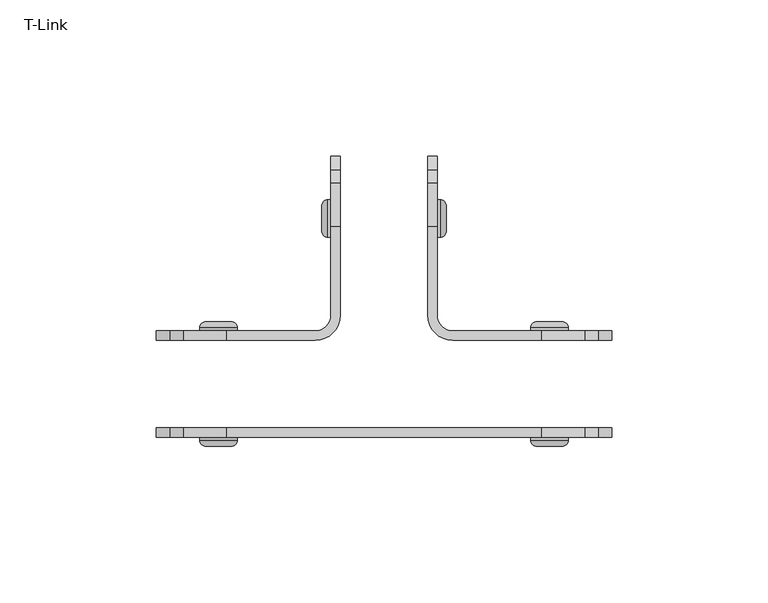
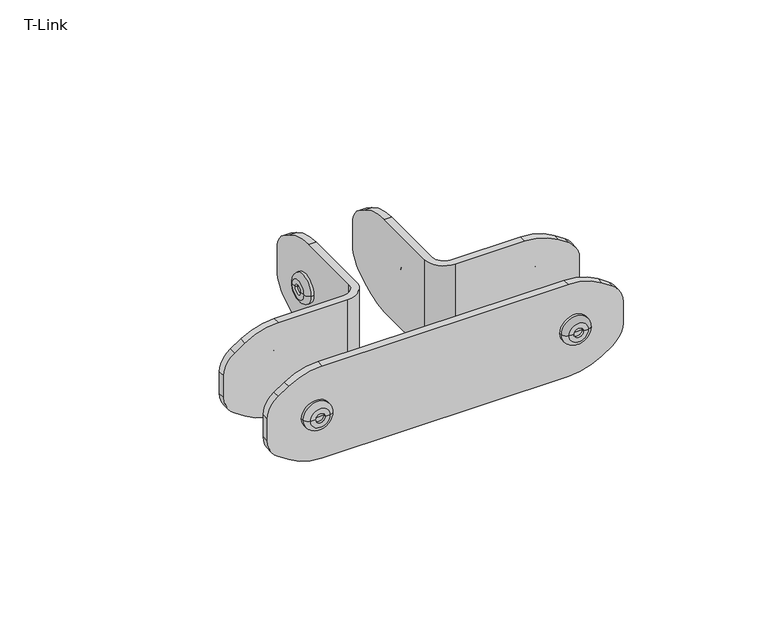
"""IFC4 building model written with IfcOpenShell, lengths in millimetres: furniture geometry, DBLTD_Sixteen3_PrivacyScreens_Artus_Bracket : T-Link."""

from ifc_helpers import new_model, si_unit, point, frame, frame_2d, origin, place, context, project, spatial, polyline, circle_curve, ellipse_curve, trimmed, segment, composite_curve, outline, extrude, source, transform, mapped, element, save
from ifc_brep_helpers import plane_surface, cylinder_surface, revolved_surface, advanced_brep


def t_link_76a82dae(model_context):
    return source(origin(), model_context, "Body", "SolidModel", [
        advanced_brep(
        [(17.9858199, -773.0, 100.0), (17.0, -773.0, 100.0), (17.0, -761.0, 100.0), (17.9858199, -761.0, 100.0), (17.0, -767.0, 100.0), (19.0, -767.0, 100.0), (19.0, -769.0, 100.0), (19.0, -765.0, 100.0), (20.0, -769.0, 100.0), (20.0, -765.0, 100.0), (20.0, -770.9858199, 100.0), (20.0, -763.0141801, 100.0)],
        [
            (0, 1),
            (1, 2, circle_curve(frame((17.0, -767.0, 100.0), z_axis=(1.0, 0.0, 0.0), x_axis=(0.0, 1.0, 0.0)), 6.0)),
            (2, 3),
            (3, 0, circle_curve(frame((17.9858199, -767.0, 100.0), z_axis=(-1.0, 0.0, 0.0), x_axis=(0.0, 1.0, 0.0)), 6.0)),
            (2, 1, circle_curve(frame((17.0, -767.0, 100.0), z_axis=(1.0, 0.0, 0.0), x_axis=(0.0, 1.0, 0.0)), 6.0)),
            (0, 3, circle_curve(frame((17.9858199, -767.0, 100.0), z_axis=(-1.0, 0.0, 0.0), x_axis=(0.0, 1.0, 0.0)), 6.0)),
            (1, 4),
            (4, 2),
            (5, 6),
            (6, 7, circle_curve(frame((19.0, -767.0, 100.0), z_axis=(1.0, 0.0, 0.0), x_axis=(0.0, 1.0, 0.0)), 2.0)),
            (7, 5),
            (7, 6, circle_curve(frame((19.0, -767.0, 100.0), z_axis=(1.0, 0.0, 0.0), x_axis=(0.0, 1.0, 0.0)), 2.0)),
            (6, 8),
            (8, 9, circle_curve(frame((20.0, -767.0, 100.0), z_axis=(1.0, 0.0, 0.0), x_axis=(0.0, 1.0, 0.0)), 2.0)),
            (9, 7),
            (9, 8, circle_curve(frame((20.0, -767.0, 100.0), z_axis=(1.0, 0.0, 0.0), x_axis=(0.0, 1.0, 0.0)), 2.0)),
            (8, 10),
            (10, 11, circle_curve(frame((20.0, -767.0, 100.0), z_axis=(1.0, 0.0, 0.0), x_axis=(0.0, 1.0, 0.0)), 3.9858199)),
            (11, 9),
            (11, 10, circle_curve(frame((20.0, -767.0, 100.0), z_axis=(1.0, 0.0, 0.0), x_axis=(0.0, 1.0, 0.0)), 3.9858199)),
            (10, 0, circle_curve(frame((17.9858199, -770.9858199, 100.0), z_axis=(0.0, 0.0, -1.0), x_axis=(0.0, 1.0, 0.0)), 2.0141801)),
            (3, 11, circle_curve(frame((17.9858199, -763.0141801, 100.0), z_axis=(0.0, 0.0, -1.0), x_axis=(0.0, -1.0, 0.0)), 2.0141801)),
        ],
        [
            cylinder_surface(frame((18.424474, -767.0, 100.0), z_axis=(1.0, 0.0, 0.0), x_axis=(0.0, 1.0, 0.0)), 6.0),
            plane_surface(frame((17.0, -767.0, 100.0), z_axis=(-1.0, 0.0, 0.0), x_axis=(0.0, 1.0, 0.0))),
            plane_surface(frame((19.0, -767.0, 100.0), z_axis=(1.0, 0.0, 0.0), x_axis=(0.0, 1.0, 0.0))),
            revolved_surface(polyline([(20.0, -765.0, 100.0), (19.0, -765.0, 100.0)]), (18.424474, -767.0, 100.0), (1.0, 0.0, 0.0)),
            plane_surface(frame((20.0, -767.0, 100.0), z_axis=(1.0, 0.0, 0.0), x_axis=(0.0, 1.0, 0.0))),
            revolved_surface(trimmed(ellipse_curve(frame((17.9858199, -763.0141801, 100.0), z_axis=(0.0, 0.0, -1.0), x_axis=(0.0, -1.0, 0.0)), 2.0141801, 2.0141801), [point((17.9858199, -761.0, 100.0))], [point((20.0, -763.0141801, 100.0))], True, "CARTESIAN"), (18.424474, -767.0, 100.0), (1.0, 0.0, 0.0)),
        ],
        [
            (0, [[1, 2, 3, 4]]),
            (0, [[-3, 5, -1, 6]]),
            (1, [[7, 8, -2]]),
            (1, [[-8, -7, -5]]),
            (2, [[9, 10, 11]]),
            (2, [[-11, 12, -9]]),
            (3, [[13, 14, 15, -10]]),
            (3, [[-15, 16, -13, -12]]),
            (4, [[17, 18, 19, -14]]),
            (4, [[-19, 20, -17, -16]]),
            (5, [[21, -4, 22, -18]]),
            (5, [[-22, -6, -21, -20]]),
        ],
    ),
        advanced_brep(
        [(-17.0, -773.0, 100.0), (-17.9858199, -773.0, 100.0), (-17.9858199, -761.0, 100.0), (-17.0, -761.0, 100.0), (-17.0, -767.0, 100.0), (-19.0, -769.0, 100.0), (-19.0, -767.0, 100.0), (-19.0, -765.0, 100.0), (-20.0, -769.0, 100.0), (-20.0, -765.0, 100.0), (-20.0, -770.9858199, 100.0), (-20.0, -763.0141801, 100.0)],
        [
            (0, 1),
            (1, 2, circle_curve(frame((-17.9858199, -767.0, 100.0), z_axis=(1.0, 0.0, 0.0), x_axis=(0.0, 1.0, 0.0)), 6.0)),
            (2, 3),
            (3, 0, circle_curve(frame((-17.0, -767.0, 100.0), z_axis=(-1.0, 0.0, 0.0), x_axis=(0.0, 1.0, 0.0)), 6.0)),
            (2, 1, circle_curve(frame((-17.9858199, -767.0, 100.0), z_axis=(1.0, 0.0, 0.0), x_axis=(0.0, 1.0, 0.0)), 6.0)),
            (0, 3, circle_curve(frame((-17.0, -767.0, 100.0), z_axis=(-1.0, 0.0, 0.0), x_axis=(0.0, 1.0, 0.0)), 6.0)),
            (4, 0),
            (3, 4),
            (5, 6),
            (6, 7),
            (7, 5, circle_curve(frame((-19.0, -767.0, 100.0), z_axis=(-1.0, 0.0, 0.0), x_axis=(0.0, 1.0, 0.0)), 2.0)),
            (5, 7, circle_curve(frame((-19.0, -767.0, 100.0), z_axis=(-1.0, 0.0, 0.0), x_axis=(0.0, 1.0, 0.0)), 2.0)),
            (8, 5),
            (7, 9),
            (9, 8, circle_curve(frame((-20.0, -767.0, 100.0), z_axis=(-1.0, 0.0, 0.0), x_axis=(0.0, 1.0, 0.0)), 2.0)),
            (8, 9, circle_curve(frame((-20.0, -767.0, 100.0), z_axis=(-1.0, 0.0, 0.0), x_axis=(0.0, 1.0, 0.0)), 2.0)),
            (10, 8),
            (9, 11),
            (11, 10, circle_curve(frame((-20.0, -767.0, 100.0), z_axis=(-1.0, 0.0, 0.0), x_axis=(0.0, 1.0, 0.0)), 3.9858199)),
            (10, 11, circle_curve(frame((-20.0, -767.0, 100.0), z_axis=(-1.0, 0.0, 0.0), x_axis=(0.0, 1.0, 0.0)), 3.9858199)),
            (1, 10, circle_curve(frame((-17.9858199, -770.9858199, 100.0), z_axis=(0.0, 0.0, -1.0), x_axis=(0.0, 1.0, 0.0)), 2.0141801)),
            (11, 2, circle_curve(frame((-17.9858199, -763.0141801, 100.0), z_axis=(0.0, 0.0, -1.0), x_axis=(0.0, -1.0, 0.0)), 2.0141801)),
        ],
        [
            cylinder_surface(frame((-18.424474, -767.0, 100.0), z_axis=(1.0, 0.0, 0.0), x_axis=(0.0, 1.0, 0.0)), 6.0),
            plane_surface(frame((-17.0, -767.0, 100.0), z_axis=(1.0, 0.0, 0.0), x_axis=(0.0, 1.0, 0.0))),
            plane_surface(frame((-19.0, -767.0, 100.0), z_axis=(-1.0, 0.0, 0.0), x_axis=(0.0, 1.0, 0.0))),
            revolved_surface(polyline([(-19.0, -765.0, 100.0), (-20.0, -765.0, 100.0)]), (-18.424474, -767.0, 100.0), (1.0, 0.0, 0.0)),
            plane_surface(frame((-20.0, -767.0, 100.0), z_axis=(-1.0, 0.0, 0.0), x_axis=(0.0, 1.0, 0.0))),
            revolved_surface(trimmed(ellipse_curve(frame((-17.9858199, -763.0141801, 100.0), z_axis=(0.0, 0.0, -1.0), x_axis=(0.0, -1.0, 0.0)), 2.0141801, 2.0141801), [point((-20.0, -763.0141801, 100.0))], [point((-17.9858199, -761.0, 100.0))], True, "CARTESIAN"), (-18.424474, -767.0, 100.0), (1.0, 0.0, 0.0)),
        ],
        [
            (0, [[1, 2, 3, 4]]),
            (0, [[-3, 5, -1, 6]]),
            (1, [[7, -4, 8]]),
            (1, [[-8, -6, -7]]),
            (2, [[9, 10, 11]]),
            (2, [[-10, -9, 12]]),
            (3, [[13, -11, 14, 15]]),
            (3, [[-14, -12, -13, 16]]),
            (4, [[17, -15, 18, 19]]),
            (4, [[-18, -16, -17, 20]]),
            (5, [[21, -19, 22, -2]]),
            (5, [[-22, -20, -21, -5]]),
        ],
    ),
        advanced_brep(
        [(47.0, -803.0, 100.0), (47.0, -802.0141801, 100.0), (59.0, -802.0141801, 100.0), (59.0, -803.0, 100.0), (53.0, -803.0, 100.0), (51.0, -801.0, 100.0), (53.0, -801.0, 100.0), (55.0, -801.0, 100.0), (51.0, -800.0, 100.0), (55.0, -800.0, 100.0), (49.0141801, -800.0, 100.0), (56.9858199, -800.0, 100.0)],
        [
            (0, 1),
            (1, 2, circle_curve(frame((53.0, -802.0141801, 100.0), z_axis=(0.0, -1.0, 0.0), x_axis=(1.0, 0.0, 0.0)), 6.0)),
            (2, 3),
            (3, 0, circle_curve(frame((53.0, -803.0, 100.0), z_axis=(0.0, 1.0, 0.0), x_axis=(1.0, 0.0, 0.0)), 6.0)),
            (2, 1, circle_curve(frame((53.0, -802.0141801, 100.0), z_axis=(0.0, -1.0, 0.0), x_axis=(1.0, 0.0, 0.0)), 6.0)),
            (0, 3, circle_curve(frame((53.0, -803.0, 100.0), z_axis=(0.0, 1.0, 0.0), x_axis=(1.0, 0.0, 0.0)), 6.0)),
            (4, 0),
            (3, 4),
            (5, 6),
            (6, 7),
            (7, 5, circle_curve(frame((53.0, -801.0, 100.0), z_axis=(0.0, 1.0, 0.0), x_axis=(1.0, 0.0, 0.0)), 2.0)),
            (5, 7, circle_curve(frame((53.0, -801.0, 100.0), z_axis=(0.0, 1.0, 0.0), x_axis=(1.0, 0.0, 0.0)), 2.0)),
            (8, 5),
            (7, 9),
            (9, 8, circle_curve(frame((53.0, -800.0, 100.0), z_axis=(0.0, 1.0, 0.0), x_axis=(1.0, 0.0, 0.0)), 2.0)),
            (8, 9, circle_curve(frame((53.0, -800.0, 100.0), z_axis=(0.0, 1.0, 0.0), x_axis=(1.0, 0.0, 0.0)), 2.0)),
            (10, 8),
            (9, 11),
            (11, 10, circle_curve(frame((53.0, -800.0, 100.0), z_axis=(0.0, 1.0, 0.0), x_axis=(1.0, 0.0, 0.0)), 3.9858199)),
            (10, 11, circle_curve(frame((53.0, -800.0, 100.0), z_axis=(0.0, 1.0, 0.0), x_axis=(1.0, 0.0, 0.0)), 3.9858199)),
            (1, 10, circle_curve(frame((49.0141801, -802.0141801, 100.0), z_axis=(0.0, 0.0, -1.0), x_axis=(1.0, 0.0, 0.0)), 2.0141801)),
            (11, 2, circle_curve(frame((56.9858199, -802.0141801, 100.0), z_axis=(0.0, 0.0, -1.0), x_axis=(-1.0, 0.0, 0.0)), 2.0141801)),
        ],
        [
            cylinder_surface(frame((53.0, -801.575526, 100.0), z_axis=(0.0, -1.0, 0.0), x_axis=(1.0, 0.0, 0.0)), 6.0),
            plane_surface(frame((53.0, -803.0, 100.0), z_axis=(0.0, -1.0, 0.0), x_axis=(1.0, 0.0, 0.0))),
            plane_surface(frame((53.0, -801.0, 100.0), z_axis=(0.0, 1.0, 0.0), x_axis=(1.0, 0.0, 0.0))),
            revolved_surface(polyline([(55.0, -801.0, 100.0), (55.0, -800.0, 100.0)]), (53.0, -801.575526, 100.0), (0.0, -1.0, 0.0)),
            plane_surface(frame((53.0, -800.0, 100.0), z_axis=(0.0, 1.0, 0.0), x_axis=(1.0, 0.0, 0.0))),
            revolved_surface(trimmed(ellipse_curve(frame((56.9858199, -802.0141801, 100.0), z_axis=(0.0, 0.0, -1.0), x_axis=(-1.0, 0.0, 0.0)), 2.0141801, 2.0141801), [point((56.9858199, -800.0, 100.0))], [point((59.0, -802.0141801, 100.0))], True, "CARTESIAN"), (53.0, -801.575526, 100.0), (0.0, -1.0, 0.0)),
        ],
        [
            (0, [[1, 2, 3, 4]]),
            (0, [[-3, 5, -1, 6]]),
            (1, [[7, -4, 8]]),
            (1, [[-8, -6, -7]]),
            (2, [[9, 10, 11]]),
            (2, [[-10, -9, 12]]),
            (3, [[13, -11, 14, 15]]),
            (3, [[-14, -12, -13, 16]]),
            (4, [[17, -15, 18, 19]]),
            (4, [[-18, -16, -17, 20]]),
            (5, [[21, -19, 22, -2]]),
            (5, [[-22, -20, -21, -5]]),
        ],
    ),
        advanced_brep(
        [(47.0, -837.9858199, 100.0), (47.0, -837.0, 100.0), (59.0, -837.0, 100.0), (59.0, -837.9858199, 100.0), (53.0, -837.0, 100.0), (53.0, -839.0, 100.0), (51.0, -839.0, 100.0), (55.0, -839.0, 100.0), (51.0, -840.0, 100.0), (55.0, -840.0, 100.0), (49.0141801, -840.0, 100.0), (56.9858199, -840.0, 100.0)],
        [
            (0, 1),
            (1, 2, circle_curve(frame((53.0, -837.0, 100.0), z_axis=(0.0, -1.0, 0.0), x_axis=(1.0, 0.0, 0.0)), 6.0)),
            (2, 3),
            (3, 0, circle_curve(frame((53.0, -837.9858199, 100.0), z_axis=(0.0, 1.0, 0.0), x_axis=(1.0, 0.0, 0.0)), 6.0)),
            (2, 1, circle_curve(frame((53.0, -837.0, 100.0), z_axis=(0.0, -1.0, 0.0), x_axis=(1.0, 0.0, 0.0)), 6.0)),
            (0, 3, circle_curve(frame((53.0, -837.9858199, 100.0), z_axis=(0.0, 1.0, 0.0), x_axis=(1.0, 0.0, 0.0)), 6.0)),
            (1, 4),
            (4, 2),
            (5, 6),
            (6, 7, circle_curve(frame((53.0, -839.0, 100.0), z_axis=(0.0, -1.0, 0.0), x_axis=(1.0, 0.0, 0.0)), 2.0)),
            (7, 5),
            (7, 6, circle_curve(frame((53.0, -839.0, 100.0), z_axis=(0.0, -1.0, 0.0), x_axis=(1.0, 0.0, 0.0)), 2.0)),
            (6, 8),
            (8, 9, circle_curve(frame((53.0, -840.0, 100.0), z_axis=(0.0, -1.0, 0.0), x_axis=(1.0, 0.0, 0.0)), 2.0)),
            (9, 7),
            (9, 8, circle_curve(frame((53.0, -840.0, 100.0), z_axis=(0.0, -1.0, 0.0), x_axis=(1.0, 0.0, 0.0)), 2.0)),
            (8, 10),
            (10, 11, circle_curve(frame((53.0, -840.0, 100.0), z_axis=(0.0, -1.0, 0.0), x_axis=(1.0, 0.0, 0.0)), 3.9858199)),
            (11, 9),
            (11, 10, circle_curve(frame((53.0, -840.0, 100.0), z_axis=(0.0, -1.0, 0.0), x_axis=(1.0, 0.0, 0.0)), 3.9858199)),
            (10, 0, circle_curve(frame((49.0141801, -837.9858199, 100.0), z_axis=(0.0, 0.0, -1.0), x_axis=(1.0, 0.0, 0.0)), 2.0141801)),
            (3, 11, circle_curve(frame((56.9858199, -837.9858199, 100.0), z_axis=(0.0, 0.0, -1.0), x_axis=(-1.0, 0.0, 0.0)), 2.0141801)),
        ],
        [
            cylinder_surface(frame((53.0, -838.424474, 100.0), z_axis=(0.0, -1.0, 0.0), x_axis=(1.0, 0.0, 0.0)), 6.0),
            plane_surface(frame((53.0, -837.0, 100.0), z_axis=(0.0, 1.0, 0.0), x_axis=(1.0, 0.0, 0.0))),
            plane_surface(frame((53.0, -839.0, 100.0), z_axis=(0.0, -1.0, 0.0), x_axis=(1.0, 0.0, 0.0))),
            revolved_surface(polyline([(55.0, -840.0, 100.0), (55.0, -839.0, 100.0)]), (53.0, -838.424474, 100.0), (0.0, -1.0, 0.0)),
            plane_surface(frame((53.0, -840.0, 100.0), z_axis=(0.0, -1.0, 0.0), x_axis=(1.0, 0.0, 0.0))),
            revolved_surface(trimmed(ellipse_curve(frame((56.9858199, -837.9858199, 100.0), z_axis=(0.0, 0.0, -1.0), x_axis=(-1.0, 0.0, 0.0)), 2.0141801, 2.0141801), [point((59.0, -837.9858199, 100.0))], [point((56.9858199, -840.0, 100.0))], True, "CARTESIAN"), (53.0, -838.424474, 100.0), (0.0, -1.0, 0.0)),
        ],
        [
            (0, [[1, 2, 3, 4]]),
            (0, [[-3, 5, -1, 6]]),
            (1, [[7, 8, -2]]),
            (1, [[-8, -7, -5]]),
            (2, [[9, 10, 11]]),
            (2, [[-11, 12, -9]]),
            (3, [[13, 14, 15, -10]]),
            (3, [[-15, 16, -13, -12]]),
            (4, [[17, 18, 19, -14]]),
            (4, [[-19, 20, -17, -16]]),
            (5, [[21, -4, 22, -18]]),
            (5, [[-22, -6, -21, -20]]),
        ],
    ),
        advanced_brep(
        [(-47.0, -802.0141801, 100.0), (-47.0, -803.0, 100.0), (-59.0, -803.0, 100.0), (-59.0, -802.0141801, 100.0), (-53.0, -803.0, 100.0), (-53.0, -801.0, 100.0), (-51.0, -801.0, 100.0), (-55.0, -801.0, 100.0), (-51.0, -800.0, 100.0), (-55.0, -800.0, 100.0), (-49.0141801, -800.0, 100.0), (-56.9858199, -800.0, 100.0)],
        [
            (0, 1),
            (1, 2, circle_curve(frame((-53.0, -803.0, 100.0), z_axis=(0.0, 1.0, 0.0), x_axis=(-1.0, 0.0, 0.0)), 6.0)),
            (2, 3),
            (3, 0, circle_curve(frame((-53.0, -802.0141801, 100.0), z_axis=(0.0, -1.0, 0.0), x_axis=(-1.0, 0.0, 0.0)), 6.0)),
            (2, 1, circle_curve(frame((-53.0, -803.0, 100.0), z_axis=(0.0, 1.0, 0.0), x_axis=(-1.0, 0.0, 0.0)), 6.0)),
            (0, 3, circle_curve(frame((-53.0, -802.0141801, 100.0), z_axis=(0.0, -1.0, 0.0), x_axis=(-1.0, 0.0, 0.0)), 6.0)),
            (1, 4),
            (4, 2),
            (5, 6),
            (6, 7, circle_curve(frame((-53.0, -801.0, 100.0), z_axis=(0.0, 1.0, 0.0), x_axis=(-1.0, 0.0, 0.0)), 2.0)),
            (7, 5),
            (7, 6, circle_curve(frame((-53.0, -801.0, 100.0), z_axis=(0.0, 1.0, 0.0), x_axis=(-1.0, 0.0, 0.0)), 2.0)),
            (6, 8),
            (8, 9, circle_curve(frame((-53.0, -800.0, 100.0), z_axis=(0.0, 1.0, 0.0), x_axis=(-1.0, 0.0, 0.0)), 2.0)),
            (9, 7),
            (9, 8, circle_curve(frame((-53.0, -800.0, 100.0), z_axis=(0.0, 1.0, 0.0), x_axis=(-1.0, 0.0, 0.0)), 2.0)),
            (8, 10),
            (10, 11, circle_curve(frame((-53.0, -800.0, 100.0), z_axis=(0.0, 1.0, 0.0), x_axis=(-1.0, 0.0, 0.0)), 3.9858199)),
            (11, 9),
            (11, 10, circle_curve(frame((-53.0, -800.0, 100.0), z_axis=(0.0, 1.0, 0.0), x_axis=(-1.0, 0.0, 0.0)), 3.9858199)),
            (10, 0, circle_curve(frame((-49.0141801, -802.0141801, 100.0), z_axis=(0.0, 0.0, -1.0), x_axis=(-1.0, 0.0, 0.0)), 2.0141801)),
            (3, 11, circle_curve(frame((-56.9858199, -802.0141801, 100.0), z_axis=(0.0, 0.0, -1.0), x_axis=(1.0, 0.0, 0.0)), 2.0141801)),
        ],
        [
            cylinder_surface(frame((-53.0, -801.575526, 100.0), z_axis=(0.0, 1.0, 0.0), x_axis=(-1.0, 0.0, 0.0)), 6.0),
            plane_surface(frame((-53.0, -803.0, 100.0), z_axis=(0.0, -1.0, 0.0), x_axis=(-1.0, 0.0, 0.0))),
            plane_surface(frame((-53.0, -801.0, 100.0), z_axis=(0.0, 1.0, 0.0), x_axis=(-1.0, 0.0, 0.0))),
            revolved_surface(polyline([(-55.0, -800.0, 100.0), (-55.0, -801.0, 100.0)]), (-53.0, -801.575526, 100.0), (0.0, 1.0, 0.0)),
            plane_surface(frame((-53.0, -800.0, 100.0), z_axis=(0.0, 1.0, 0.0), x_axis=(-1.0, 0.0, 0.0))),
            revolved_surface(trimmed(ellipse_curve(frame((-56.9858199, -802.0141801, 100.0), z_axis=(0.0, 0.0, -1.0), x_axis=(1.0, 0.0, 0.0)), 2.0141801, 2.0141801), [point((-59.0, -802.0141801, 100.0))], [point((-56.9858199, -800.0, 100.0))], True, "CARTESIAN"), (-53.0, -801.575526, 100.0), (0.0, 1.0, 0.0)),
        ],
        [
            (0, [[1, 2, 3, 4]]),
            (0, [[-3, 5, -1, 6]]),
            (1, [[7, 8, -2]]),
            (1, [[-8, -7, -5]]),
            (2, [[9, 10, 11]]),
            (2, [[-11, 12, -9]]),
            (3, [[13, 14, 15, -10]]),
            (3, [[-15, 16, -13, -12]]),
            (4, [[17, 18, 19, -14]]),
            (4, [[-19, 20, -17, -16]]),
            (5, [[21, -4, 22, -18]]),
            (5, [[-22, -6, -21, -20]]),
        ],
    ),
        advanced_brep(
        [(-47.0, -837.0, 100.0), (-47.0, -837.9858199, 100.0), (-59.0, -837.9858199, 100.0), (-59.0, -837.0, 100.0), (-53.0, -837.0, 100.0), (-51.0, -839.0, 100.0), (-53.0, -839.0, 100.0), (-55.0, -839.0, 100.0), (-51.0, -840.0, 100.0), (-55.0, -840.0, 100.0), (-49.0141801, -840.0, 100.0), (-56.9858199, -840.0, 100.0)],
        [
            (0, 1),
            (1, 2, circle_curve(frame((-53.0, -837.9858199, 100.0), z_axis=(0.0, 1.0, 0.0), x_axis=(-1.0, 0.0, 0.0)), 6.0)),
            (2, 3),
            (3, 0, circle_curve(frame((-53.0, -837.0, 100.0), z_axis=(0.0, -1.0, 0.0), x_axis=(-1.0, 0.0, 0.0)), 6.0)),
            (2, 1, circle_curve(frame((-53.0, -837.9858199, 100.0), z_axis=(0.0, 1.0, 0.0), x_axis=(-1.0, 0.0, 0.0)), 6.0)),
            (0, 3, circle_curve(frame((-53.0, -837.0, 100.0), z_axis=(0.0, -1.0, 0.0), x_axis=(-1.0, 0.0, 0.0)), 6.0)),
            (4, 0),
            (3, 4),
            (5, 6),
            (6, 7),
            (7, 5, circle_curve(frame((-53.0, -839.0, 100.0), z_axis=(0.0, -1.0, 0.0), x_axis=(-1.0, 0.0, 0.0)), 2.0)),
            (5, 7, circle_curve(frame((-53.0, -839.0, 100.0), z_axis=(0.0, -1.0, 0.0), x_axis=(-1.0, 0.0, 0.0)), 2.0)),
            (8, 5),
            (7, 9),
            (9, 8, circle_curve(frame((-53.0, -840.0, 100.0), z_axis=(0.0, -1.0, 0.0), x_axis=(-1.0, 0.0, 0.0)), 2.0)),
            (8, 9, circle_curve(frame((-53.0, -840.0, 100.0), z_axis=(0.0, -1.0, 0.0), x_axis=(-1.0, 0.0, 0.0)), 2.0)),
            (10, 8),
            (9, 11),
            (11, 10, circle_curve(frame((-53.0, -840.0, 100.0), z_axis=(0.0, -1.0, 0.0), x_axis=(-1.0, 0.0, 0.0)), 3.9858199)),
            (10, 11, circle_curve(frame((-53.0, -840.0, 100.0), z_axis=(0.0, -1.0, 0.0), x_axis=(-1.0, 0.0, 0.0)), 3.9858199)),
            (1, 10, circle_curve(frame((-49.0141801, -837.9858199, 100.0), z_axis=(0.0, 0.0, -1.0), x_axis=(-1.0, 0.0, 0.0)), 2.0141801)),
            (11, 2, circle_curve(frame((-56.9858199, -837.9858199, 100.0), z_axis=(0.0, 0.0, -1.0), x_axis=(1.0, 0.0, 0.0)), 2.0141801)),
        ],
        [
            cylinder_surface(frame((-53.0, -838.424474, 100.0), z_axis=(0.0, 1.0, 0.0), x_axis=(-1.0, 0.0, 0.0)), 6.0),
            plane_surface(frame((-53.0, -837.0, 100.0), z_axis=(0.0, 1.0, 0.0), x_axis=(-1.0, 0.0, 0.0))),
            plane_surface(frame((-53.0, -839.0, 100.0), z_axis=(0.0, -1.0, 0.0), x_axis=(-1.0, 0.0, 0.0))),
            revolved_surface(polyline([(-55.0, -839.0, 100.0), (-55.0, -840.0, 100.0)]), (-53.0, -838.424474, 100.0), (0.0, 1.0, 0.0)),
            plane_surface(frame((-53.0, -840.0, 100.0), z_axis=(0.0, -1.0, 0.0), x_axis=(-1.0, 0.0, 0.0))),
            revolved_surface(trimmed(ellipse_curve(frame((-56.9858199, -837.9858199, 100.0), z_axis=(0.0, 0.0, -1.0), x_axis=(1.0, 0.0, 0.0)), 2.0141801, 2.0141801), [point((-56.9858199, -840.0, 100.0))], [point((-59.0, -837.9858199, 100.0))], True, "CARTESIAN"), (-53.0, -838.424474, 100.0), (0.0, 1.0, 0.0)),
        ],
        [
            (0, [[1, 2, 3, 4]]),
            (0, [[-3, 5, -1, 6]]),
            (1, [[7, -4, 8]]),
            (1, [[-8, -6, -7]]),
            (2, [[9, 10, 11]]),
            (2, [[-10, -9, 12]]),
            (3, [[13, -11, 14, 15]]),
            (3, [[-14, -12, -13, 16]]),
            (4, [[17, -15, 18, 19]]),
            (4, [[-18, -16, -17, 20]]),
            (5, [[21, -19, 22, -2]]),
            (5, [[-22, -20, -21, -5]]),
        ],
    ),
        advanced_brep(
        [(22.0, -806.0, 120.0), (50.4306091, -806.0, 120.0), (50.4306091, -803.0, 120.0), (22.0, -803.0, 120.0), (17.0, -798.0, 120.0), (17.0, -769.5693909, 120.0), (14.0, -769.5693909, 120.0), (14.0, -798.0, 120.0), (22.0, -803.0, 80.0), (50.4306091, -803.0, 80.0), (50.4306091, -806.0, 80.0), (22.0, -806.0, 80.0), (14.0, -798.0, 80.0), (14.0, -769.5693909, 80.0), (17.0, -769.5693909, 80.0), (17.0, -798.0, 80.0), (17.0, -755.701886, 84.1987426), (17.0, -751.452998, 87.0313346), (17.0, -747.0, 95.3518376), (17.0, -747.0, 104.6481624), (17.0, -751.452998, 112.9686654), (17.0, -755.701886, 115.8012574), (14.0, -747.0, 95.3518376), (14.0, -747.0, 104.6481624), (14.0, -755.701886, 115.8012574), (14.0, -751.452998, 112.9686654), (14.0, -751.452998, 87.0313346), (14.0, -755.701886, 84.1987426), (64.298114, -806.0, 84.1987426), (68.547002, -806.0, 87.0313346), (73.0, -806.0, 95.3518376), (73.0, -806.0, 104.6481624), (68.547002, -806.0, 112.9686654), (64.298114, -806.0, 115.8012574), (73.0, -803.0, 95.3518376), (73.0, -803.0, 104.6481624), (64.298114, -803.0, 115.8012574), (68.547002, -803.0, 112.9686654), (68.547002, -803.0, 87.0313346), (64.298114, -803.0, 84.1987426)],
        [
            (0, 1),
            (1, 2),
            (2, 3),
            (3, 4, circle_curve(frame((22.0, -798.0, 120.0), z_axis=(0.0, 0.0, -1.0), x_axis=(0.0, -1.0, 0.0)), 5.0)),
            (4, 5),
            (5, 6),
            (6, 7),
            (7, 0, circle_curve(frame((22.0, -798.0, 120.0), z_axis=(0.0, 0.0, 1.0), x_axis=(0.0, -1.0, 0.0)), 8.0)),
            (8, 9),
            (9, 10),
            (10, 11),
            (11, 12, circle_curve(frame((22.0, -798.0, 80.0), z_axis=(0.0, 0.0, -1.0), x_axis=(0.0, -1.0, 0.0)), 8.0)),
            (12, 13),
            (13, 14),
            (14, 15),
            (15, 8, circle_curve(frame((22.0, -798.0, 80.0), z_axis=(0.0, 0.0, 1.0), x_axis=(0.0, -1.0, 0.0)), 5.0)),
            (3, 8),
            (15, 4),
            (14, 16, circle_curve(frame((17.0, -769.5693909, 105.0), z_axis=(1.0, 0.0, 0.0), x_axis=(0.0, -1.0, 0.0)), 25.0)),
            (16, 17),
            (17, 18, circle_curve(frame((17.0, -757.0, 95.3518376), z_axis=(1.0, 0.0, 0.0), x_axis=(0.0, -1.0, 0.0)), 10.0)),
            (18, 19),
            (19, 20, circle_curve(frame((17.0, -757.0, 104.6481624), z_axis=(1.0, 0.0, 0.0), x_axis=(0.0, -1.0, 0.0)), 10.0)),
            (20, 21),
            (21, 5, circle_curve(frame((17.0, -769.5693909, 95.0), z_axis=(1.0, 0.0, 0.0), x_axis=(0.0, -1.0, 0.0)), 25.0)),
            (18, 22),
            (22, 23),
            (23, 19),
            (6, 24, circle_curve(frame((14.0, -769.5693909, 95.0), z_axis=(-1.0, 0.0, 0.0), x_axis=(0.0, -1.0, 0.0)), 25.0)),
            (24, 25),
            (25, 23, circle_curve(frame((14.0, -757.0, 104.6481624), z_axis=(-1.0, 0.0, 0.0), x_axis=(0.0, -1.0, 0.0)), 10.0)),
            (22, 26, circle_curve(frame((14.0, -757.0, 95.3518376), z_axis=(-1.0, 0.0, 0.0), x_axis=(0.0, -1.0, 0.0)), 10.0)),
            (26, 27),
            (27, 13, circle_curve(frame((14.0, -769.5693909, 105.0), z_axis=(-1.0, 0.0, 0.0), x_axis=(0.0, -1.0, 0.0)), 25.0)),
            (12, 7),
            (11, 0),
            (10, 28, circle_curve(frame((50.4306091, -806.0, 105.0), z_axis=(0.0, -1.0, 0.0), x_axis=(-1.0, 0.0, 0.0)), 25.0)),
            (28, 29),
            (29, 30, circle_curve(frame((63.0, -806.0, 95.3518376), z_axis=(0.0, -1.0, 0.0), x_axis=(-1.0, 0.0, 0.0)), 10.0)),
            (30, 31),
            (31, 32, circle_curve(frame((63.0, -806.0, 104.6481624), z_axis=(0.0, -1.0, 0.0), x_axis=(-1.0, 0.0, 0.0)), 10.0)),
            (32, 33),
            (33, 1, circle_curve(frame((50.4306091, -806.0, 95.0), z_axis=(0.0, -1.0, 0.0), x_axis=(-1.0, 0.0, 0.0)), 25.0)),
            (30, 34),
            (34, 35),
            (35, 31),
            (2, 36, circle_curve(frame((50.4306091, -803.0, 95.0), z_axis=(0.0, 1.0, 0.0), x_axis=(-1.0, 0.0, 0.0)), 25.0)),
            (36, 37),
            (37, 35, circle_curve(frame((63.0, -803.0, 104.6481624), z_axis=(0.0, 1.0, 0.0), x_axis=(-1.0, 0.0, 0.0)), 10.0)),
            (34, 38, circle_curve(frame((63.0, -803.0, 95.3518376), z_axis=(0.0, 1.0, 0.0), x_axis=(-1.0, 0.0, 0.0)), 10.0)),
            (38, 39),
            (39, 9, circle_curve(frame((50.4306091, -803.0, 105.0), z_axis=(0.0, 1.0, 0.0), x_axis=(-1.0, 0.0, 0.0)), 25.0)),
            (17, 26),
            (16, 27),
            (21, 24),
            (20, 25),
            (29, 38),
            (28, 39),
            (33, 36),
            (32, 37),
        ],
        [
            plane_surface(frame((73.0, -803.0, 120.0), z_axis=(0.0, 0.0, 1.0), x_axis=(1.0, 0.0, 0.0))),
            plane_surface(frame((73.0, -803.0, 80.0), z_axis=(0.0, 0.0, -1.0), x_axis=(-1.0, 0.0, 0.0))),
            revolved_surface(polyline([(22.0, -803.0, 80.0), (22.0, -803.0, 120.0)]), (22.0, -798.0, 80.0), (0.0, 0.0, -1.0)),
            plane_surface(frame((17.0, -747.0, 120.0), z_axis=(1.0, 0.0, 0.0), x_axis=(0.0, 0.0, -1.0))),
            plane_surface(frame((14.0, -747.0, 120.0), z_axis=(0.0, 1.0, 0.0), x_axis=(0.0, 0.0, -1.0))),
            plane_surface(frame((14.0, -798.0, 120.0), z_axis=(-1.0, 0.0, 0.0), x_axis=(0.0, 0.0, -1.0))),
            cylinder_surface(frame((22.0, -798.0, 80.0), z_axis=(0.0, 0.0, 1.0), x_axis=(0.0, -1.0, 0.0)), 8.0),
            plane_surface(frame((73.0, -806.0, 120.0), z_axis=(0.0, -1.0, 0.0), x_axis=(0.0, 0.0, -1.0))),
            plane_surface(frame((73.0, -803.0, 120.0), z_axis=(1.0, 0.0, 0.0), x_axis=(0.0, 0.0, -1.0))),
            plane_surface(frame((22.0, -803.0, 120.0), z_axis=(0.0, 1.0, 0.0), x_axis=(0.0, 0.0, -1.0))),
            cylinder_surface(frame((820.0, -757.0, 95.3518376), z_axis=(-1.0, 0.0, 0.0), x_axis=(0.0, -1.0, 0.0)), 10.0),
            plane_surface(frame((17.0, -755.701886, 84.1987426), z_axis=(0.0, 0.5547001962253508, -0.8320502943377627), x_axis=(-1.0, 0.0, 0.0))),
            cylinder_surface(frame((820.0, -769.5693909, 105.0), z_axis=(-1.0, 0.0, 0.0), x_axis=(0.0, -1.0, 0.0)), 25.0),
            cylinder_surface(frame((820.0, -769.5693909, 95.0), z_axis=(-1.0, 0.0, 0.0), x_axis=(0.0, -1.0, 0.0)), 25.0),
            plane_surface(frame((17.0, -751.452998, 112.9686654), z_axis=(0.0, 0.5547001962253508, 0.8320502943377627), x_axis=(-1.0, 0.0, 0.0))),
            cylinder_surface(frame((820.0, -757.0, 104.6481624), z_axis=(-1.0, 0.0, 0.0), x_axis=(0.0, -1.0, 0.0)), 10.0),
            cylinder_surface(frame((63.0, 0.0, 95.3518376), z_axis=(0.0, -1.0, 0.0), x_axis=(-1.0, 0.0, 0.0)), 10.0),
            plane_surface(frame((68.547002, -803.0, 87.0313346), z_axis=(0.5547001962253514, 0.0, -0.8320502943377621), x_axis=(0.0, -1.0, 0.0))),
            cylinder_surface(frame((50.4306091, 0.0, 105.0), z_axis=(0.0, -1.0, 0.0), x_axis=(-1.0, 0.0, 0.0)), 25.0),
            cylinder_surface(frame((50.4306091, 0.0, 95.0), z_axis=(0.0, -1.0, 0.0), x_axis=(-1.0, 0.0, 0.0)), 25.0),
            plane_surface(frame((64.298114, -803.0, 115.8012574), z_axis=(0.5547001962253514, 0.0, 0.8320502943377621), x_axis=(0.0, -1.0, 0.0))),
            cylinder_surface(frame((63.0, 0.0, 104.6481624), z_axis=(0.0, -1.0, 0.0), x_axis=(-1.0, 0.0, 0.0)), 10.0),
        ],
        [
            (0, [[1, 2, 3, 4, 5, 6, 7, 8]]),
            (1, [[9, 10, 11, 12, 13, 14, 15, 16]]),
            (2, [[17, -16, 18, -4]]),
            (3, [[-15, 19, 20, 21, 22, 23, 24, 25, -5, -18]]),
            (4, [[26, 27, 28, -22]]),
            (5, [[-7, 29, 30, 31, -27, 32, 33, 34, -13, 35]]),
            (6, [[-35, -12, 36, -8]]),
            (7, [[-11, 37, 38, 39, 40, 41, 42, 43, -1, -36]]),
            (8, [[44, 45, 46, -40]]),
            (9, [[-3, 47, 48, 49, -45, 50, 51, 52, -9, -17]]),
            (10, [[-32, -26, -21, 53]]),
            (11, [[-20, 54, -33, -53]]),
            (12, [[-19, -14, -34, -54]]),
            (13, [[-29, -6, -25, 55]]),
            (14, [[-24, 56, -30, -55]]),
            (15, [[-23, -28, -31, -56]]),
            (16, [[-50, -44, -39, 57]]),
            (17, [[-38, 58, -51, -57]]),
            (18, [[-37, -10, -52, -58]]),
            (19, [[-47, -2, -43, 59]]),
            (20, [[-42, 60, -48, -59]]),
            (21, [[-41, -46, -49, -60]]),
        ],
    ),
        advanced_brep(
        [(-22.0, -803.0, 120.0), (-50.4306091, -803.0, 120.0), (-50.4306091, -806.0, 120.0), (-22.0, -806.0, 120.0), (-14.0, -798.0, 120.0), (-14.0, -769.5693909, 120.0), (-17.0, -769.5693909, 120.0), (-17.0, -798.0, 120.0), (-22.0, -806.0, 80.0), (-50.4306091, -806.0, 80.0), (-50.4306091, -803.0, 80.0), (-22.0, -803.0, 80.0), (-17.0, -798.0, 80.0), (-17.0, -769.5693909, 80.0), (-14.0, -769.5693909, 80.0), (-14.0, -798.0, 80.0), (-17.0, -755.701886, 115.8012574), (-17.0, -751.452998, 112.9686654), (-17.0, -747.0, 104.6481624), (-17.0, -747.0, 95.3518376), (-17.0, -751.452998, 87.0313346), (-17.0, -755.701886, 84.1987426), (-14.0, -747.0, 104.6481624), (-14.0, -747.0, 95.3518376), (-14.0, -755.701886, 84.1987426), (-14.0, -751.452998, 87.0313346), (-14.0, -751.452998, 112.9686654), (-14.0, -755.701886, 115.8012574), (-64.298114, -806.0, 115.8012574), (-68.547002, -806.0, 112.9686654), (-73.0, -806.0, 104.6481624), (-73.0, -806.0, 95.3518376), (-68.547002, -806.0, 87.0313346), (-64.298114, -806.0, 84.1987426), (-73.0, -803.0, 104.6481624), (-73.0, -803.0, 95.3518376), (-64.298114, -803.0, 84.1987426), (-68.547002, -803.0, 87.0313346), (-68.547002, -803.0, 112.9686654), (-64.298114, -803.0, 115.8012574)],
        [
            (0, 1),
            (1, 2),
            (2, 3),
            (3, 4, circle_curve(frame((-22.0, -798.0, 120.0), z_axis=(0.0, 0.0, 1.0), x_axis=(0.0, -1.0, 0.0)), 8.0)),
            (4, 5),
            (5, 6),
            (6, 7),
            (7, 0, circle_curve(frame((-22.0, -798.0, 120.0), z_axis=(0.0, 0.0, -1.0), x_axis=(0.0, -1.0, 0.0)), 5.0)),
            (8, 9),
            (9, 10),
            (10, 11),
            (11, 12, circle_curve(frame((-22.0, -798.0, 80.0), z_axis=(0.0, 0.0, 1.0), x_axis=(0.0, -1.0, 0.0)), 5.0)),
            (12, 13),
            (13, 14),
            (14, 15),
            (15, 8, circle_curve(frame((-22.0, -798.0, 80.0), z_axis=(0.0, 0.0, -1.0), x_axis=(0.0, -1.0, 0.0)), 8.0)),
            (7, 12),
            (11, 0),
            (6, 16, circle_curve(frame((-17.0, -769.5693909, 95.0), z_axis=(-1.0, 0.0, 0.0), x_axis=(0.0, -1.0, 0.0)), 25.0)),
            (16, 17),
            (17, 18, circle_curve(frame((-17.0, -757.0, 104.6481624), z_axis=(-1.0, 0.0, 0.0), x_axis=(0.0, -1.0, 0.0)), 10.0)),
            (18, 19),
            (19, 20, circle_curve(frame((-17.0, -757.0, 95.3518376), z_axis=(-1.0, 0.0, 0.0), x_axis=(0.0, -1.0, 0.0)), 10.0)),
            (20, 21),
            (21, 13, circle_curve(frame((-17.0, -769.5693909, 105.0), z_axis=(-1.0, 0.0, 0.0), x_axis=(0.0, -1.0, 0.0)), 25.0)),
            (18, 22),
            (22, 23),
            (23, 19),
            (14, 24, circle_curve(frame((-14.0, -769.5693909, 105.0), z_axis=(1.0, 0.0, 0.0), x_axis=(0.0, -1.0, 0.0)), 25.0)),
            (24, 25),
            (25, 23, circle_curve(frame((-14.0, -757.0, 95.3518376), z_axis=(1.0, 0.0, 0.0), x_axis=(0.0, -1.0, 0.0)), 10.0)),
            (22, 26, circle_curve(frame((-14.0, -757.0, 104.6481624), z_axis=(1.0, 0.0, 0.0), x_axis=(0.0, -1.0, 0.0)), 10.0)),
            (26, 27),
            (27, 5, circle_curve(frame((-14.0, -769.5693909, 95.0), z_axis=(1.0, 0.0, 0.0), x_axis=(0.0, -1.0, 0.0)), 25.0)),
            (4, 15),
            (3, 8),
            (2, 28, circle_curve(frame((-50.4306091, -806.0, 95.0), z_axis=(0.0, -1.0, 0.0), x_axis=(1.0, 0.0, 0.0)), 25.0)),
            (28, 29),
            (29, 30, circle_curve(frame((-63.0, -806.0, 104.6481624), z_axis=(0.0, -1.0, 0.0), x_axis=(1.0, 0.0, 0.0)), 10.0)),
            (30, 31),
            (31, 32, circle_curve(frame((-63.0, -806.0, 95.3518376), z_axis=(0.0, -1.0, 0.0), x_axis=(1.0, 0.0, 0.0)), 10.0)),
            (32, 33),
            (33, 9, circle_curve(frame((-50.4306091, -806.0, 105.0), z_axis=(0.0, -1.0, 0.0), x_axis=(1.0, 0.0, 0.0)), 25.0)),
            (30, 34),
            (34, 35),
            (35, 31),
            (10, 36, circle_curve(frame((-50.4306091, -803.0, 105.0), z_axis=(0.0, 1.0, 0.0), x_axis=(1.0, 0.0, 0.0)), 25.0)),
            (36, 37),
            (37, 35, circle_curve(frame((-63.0, -803.0, 95.3518376), z_axis=(0.0, 1.0, 0.0), x_axis=(1.0, 0.0, 0.0)), 10.0)),
            (34, 38, circle_curve(frame((-63.0, -803.0, 104.6481624), z_axis=(0.0, 1.0, 0.0), x_axis=(1.0, 0.0, 0.0)), 10.0)),
            (38, 39),
            (39, 1, circle_curve(frame((-50.4306091, -803.0, 95.0), z_axis=(0.0, 1.0, 0.0), x_axis=(1.0, 0.0, 0.0)), 25.0)),
            (33, 36),
            (32, 37),
            (29, 38),
            (28, 39),
            (25, 20),
            (24, 21),
            (27, 16),
            (26, 17),
        ],
        [
            plane_surface(frame((-22.0, -803.0, 120.0), z_axis=(0.0, 0.0, 1.0), x_axis=(1.0, 0.0, 0.0))),
            plane_surface(frame((-22.0, -803.0, 80.0), z_axis=(0.0, 0.0, -1.0), x_axis=(-1.0, 0.0, 0.0))),
            revolved_surface(polyline([(-22.0, -803.0, 80.0), (-22.0, -803.0, 120.0)]), (-22.0, -798.0, 80.0), (0.0, 0.0, -1.0)),
            plane_surface(frame((-17.0, -798.0, 120.0), z_axis=(-1.0, 0.0, 0.0), x_axis=(0.0, 0.0, -1.0))),
            plane_surface(frame((-17.0, -747.0, 120.0), z_axis=(0.0, 1.0, 0.0), x_axis=(0.0, 0.0, -1.0))),
            plane_surface(frame((-14.0, -747.0, 120.0), z_axis=(1.0, 0.0, 0.0), x_axis=(0.0, 0.0, -1.0))),
            cylinder_surface(frame((-22.0, -798.0, 80.0), z_axis=(0.0, 0.0, 1.0), x_axis=(0.0, -1.0, 0.0)), 8.0),
            plane_surface(frame((-22.0, -806.0, 120.0), z_axis=(0.0, -1.0, 0.0), x_axis=(0.0, 0.0, -1.0))),
            plane_surface(frame((-73.0, -806.0, 120.0), z_axis=(-1.0, 0.0, 0.0), x_axis=(0.0, 0.0, -1.0))),
            plane_surface(frame((-73.0, -803.0, 120.0), z_axis=(0.0, 1.0, 0.0), x_axis=(0.0, 0.0, -1.0))),
            cylinder_surface(frame((-50.4306091, -837.0, 105.0), z_axis=(0.0, -1.0, 0.0), x_axis=(1.0, 0.0, 0.0)), 25.0),
            plane_surface(frame((-64.298114, -803.0, 84.1987426), z_axis=(-0.5547001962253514, 0.0, -0.8320502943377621), x_axis=(0.0, -1.0, 0.0))),
            cylinder_surface(frame((-63.0, -837.0, 95.3518376), z_axis=(0.0, -1.0, 0.0), x_axis=(1.0, 0.0, 0.0)), 10.0),
            cylinder_surface(frame((-63.0, 0.0, 104.6481624), z_axis=(0.0, -1.0, 0.0), x_axis=(1.0, 0.0, 0.0)), 10.0),
            plane_surface(frame((-68.547002, -803.0, 112.9686654), z_axis=(-0.5547001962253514, 0.0, 0.8320502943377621), x_axis=(0.0, -1.0, 0.0))),
            cylinder_surface(frame((-50.4306091, 0.0, 95.0), z_axis=(0.0, -1.0, 0.0), x_axis=(1.0, 0.0, 0.0)), 25.0),
            cylinder_surface(frame((820.0, -757.0, 95.3518376), z_axis=(-1.0, 0.0, 0.0), x_axis=(0.0, -1.0, 0.0)), 10.0),
            plane_surface(frame((17.0, -755.701886, 84.1987426), z_axis=(0.0, 0.5547001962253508, -0.8320502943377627), x_axis=(-1.0, 0.0, 0.0))),
            cylinder_surface(frame((820.0, -769.5693909, 105.0), z_axis=(-1.0, 0.0, 0.0), x_axis=(0.0, -1.0, 0.0)), 25.0),
            cylinder_surface(frame((820.0, -769.5693909, 95.0), z_axis=(-1.0, 0.0, 0.0), x_axis=(0.0, -1.0, 0.0)), 25.0),
            plane_surface(frame((17.0, -751.452998, 112.9686654), z_axis=(0.0, 0.5547001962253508, 0.8320502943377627), x_axis=(-1.0, 0.0, 0.0))),
            cylinder_surface(frame((820.0, -757.0, 104.6481624), z_axis=(-1.0, 0.0, 0.0), x_axis=(0.0, -1.0, 0.0)), 10.0),
        ],
        [
            (0, [[1, 2, 3, 4, 5, 6, 7, 8]]),
            (1, [[9, 10, 11, 12, 13, 14, 15, 16]]),
            (2, [[17, -12, 18, -8]]),
            (3, [[-7, 19, 20, 21, 22, 23, 24, 25, -13, -17]]),
            (4, [[26, 27, 28, -22]]),
            (5, [[-15, 29, 30, 31, -27, 32, 33, 34, -5, 35]]),
            (6, [[36, -16, -35, -4]]),
            (7, [[-3, 37, 38, 39, 40, 41, 42, 43, -9, -36]]),
            (8, [[44, 45, 46, -40]]),
            (9, [[-11, 47, 48, 49, -45, 50, 51, 52, -1, -18]]),
            (10, [[-47, -10, -43, 53]]),
            (11, [[-42, 54, -48, -53]]),
            (12, [[-41, -46, -49, -54]]),
            (13, [[-50, -44, -39, 55]]),
            (14, [[-38, 56, -51, -55]]),
            (15, [[-37, -2, -52, -56]]),
            (16, [[-23, -28, -31, 57]]),
            (17, [[-30, 58, -24, -57]]),
            (18, [[-29, -14, -25, -58]]),
            (19, [[-19, -6, -34, 59]]),
            (20, [[-33, 60, -20, -59]]),
            (21, [[-32, -26, -21, -60]]),
        ],
    ),
        extrude(outline(composite_curve([segment(trimmed(circle_curve(frame_2d((95.0, -50.4306091)), 25.0), [point((120.0, -50.4306091))], [point((115.8012574, -64.298114))], False, "CARTESIAN"), True, "CONTINUOUS"), segment(polyline([(115.8012574, -64.298114), (112.9686654, -68.547002)]), True, "CONTINUOUS"), segment(trimmed(circle_curve(frame_2d((104.6481624, -63.0)), 10.0), [point((112.9686654, -68.547002))], [point((104.6481624, -73.0))], False, "CARTESIAN"), True, "CONTINUOUS"), segment(polyline([(104.6481624, -73.0), (95.3518376, -73.0)]), True, "CONTINUOUS"), segment(trimmed(circle_curve(frame_2d((95.3518376, -63.0)), 10.0), [point((95.3518376, -73.0))], [point((87.0313346, -68.547002))], False, "CARTESIAN"), True, "CONTINUOUS"), segment(polyline([(87.0313346, -68.547002), (84.1987426, -64.298114)]), True, "CONTINUOUS"), segment(trimmed(circle_curve(frame_2d((105.0, -50.4306091)), 25.0), [point((84.1987426, -64.298114))], [point((80.0, -50.4306091))], False, "CARTESIAN"), True, "CONTINUOUS"), segment(polyline([(80.0, -50.4306091), (80.0, 50.4306091)]), True, "CONTINUOUS"), segment(trimmed(circle_curve(frame_2d((105.0, 50.4306091)), 25.0), [point((80.0, 50.4306091))], [point((84.1987426, 64.298114))], False, "CARTESIAN"), True, "CONTINUOUS"), segment(polyline([(84.1987426, 64.298114), (87.0313346, 68.547002)]), True, "CONTINUOUS"), segment(trimmed(circle_curve(frame_2d((95.3518376, 63.0)), 10.0), [point((87.0313346, 68.547002))], [point((95.3518376, 73.0))], False, "CARTESIAN"), True, "CONTINUOUS"), segment(polyline([(95.3518376, 73.0), (104.6481624, 73.0)]), True, "CONTINUOUS"), segment(trimmed(circle_curve(frame_2d((104.6481624, 63.0)), 10.0), [point((104.6481624, 73.0))], [point((112.9686654, 68.547002))], False, "CARTESIAN"), True, "CONTINUOUS"), segment(polyline([(112.9686654, 68.547002), (115.8012574, 64.298114)]), True, "CONTINUOUS"), segment(trimmed(circle_curve(frame_2d((95.0, 50.4306091)), 25.0), [point((115.8012574, 64.298114))], [point((120.0, 50.4306091))], False, "CARTESIAN"), True, "CONTINUOUS"), segment(polyline([(120.0, 50.4306091), (120.0, -50.4306091)]), True, "CONTINUOUS")], self_intersect=False)), frame((0.0, -837.0, 0.0), z_axis=(0.0, 1.0, 0.0), x_axis=(0.0, 0.0, 1.0)), (0.0, 0.0, 1.0), 3.0),
    ])


if __name__ == "__main__":
    model = new_model("IFC4")
    model_context = context("Model", 3, world=origin())
    ifc_project = project(units=[si_unit("LENGTHUNIT", "METRE", prefix="MILLI")], contexts=[model_context])
    site = spatial("IfcSite", under=ifc_project)
    building = spatial("IfcBuilding", under=site)
    placement = place(None, origin())
    t_link_shape = t_link_76a82dae(model_context)
    element("IfcFurniture", 1, ObjectType="DBLTD_Sixteen3_PrivacyScreens_Artus_Bracket : T-Link", at=placement, inside=building, context=model_context, shape_type="MappedRepresentation", body=[
        mapped(t_link_shape, transform((0.0, 0.0, 0.0), x_axis=(1.0, 0.0, 0.0), y_axis=(0.0, 1.0, 0.0), z_axis=(0.0, 0.0, 1.0))),
    ])
    save(model, "model.ifc")
